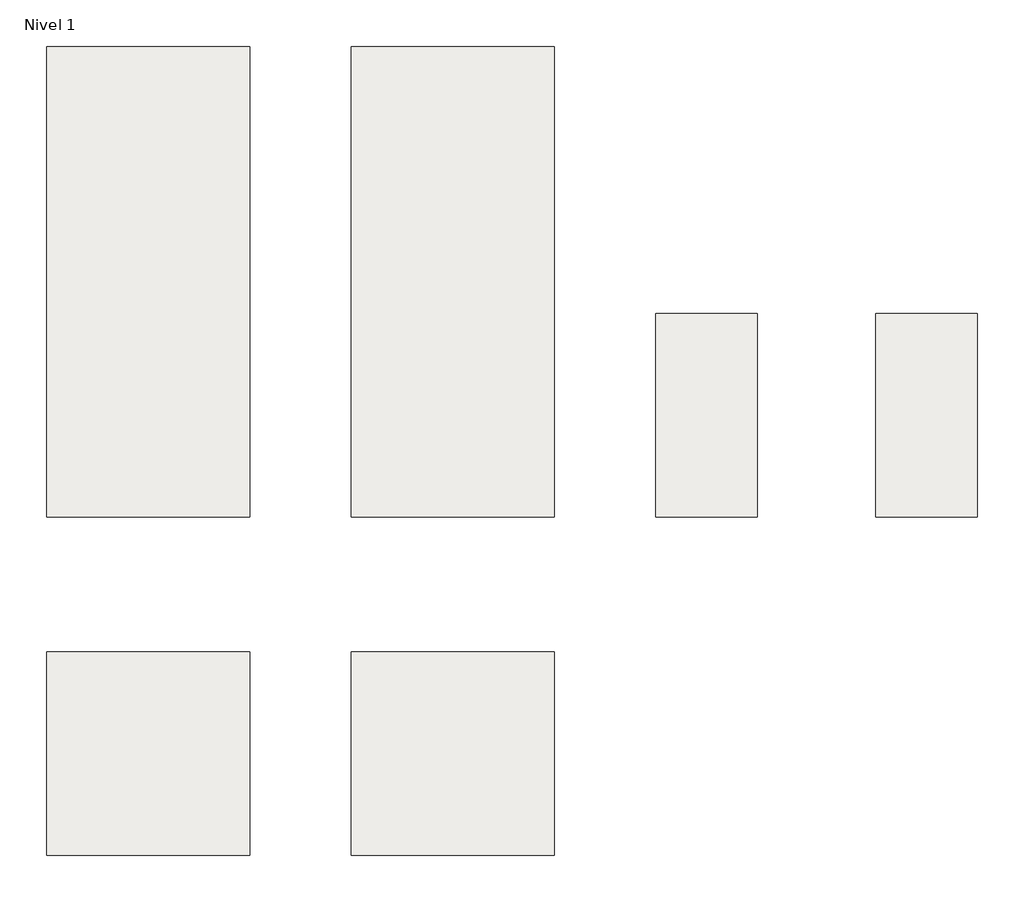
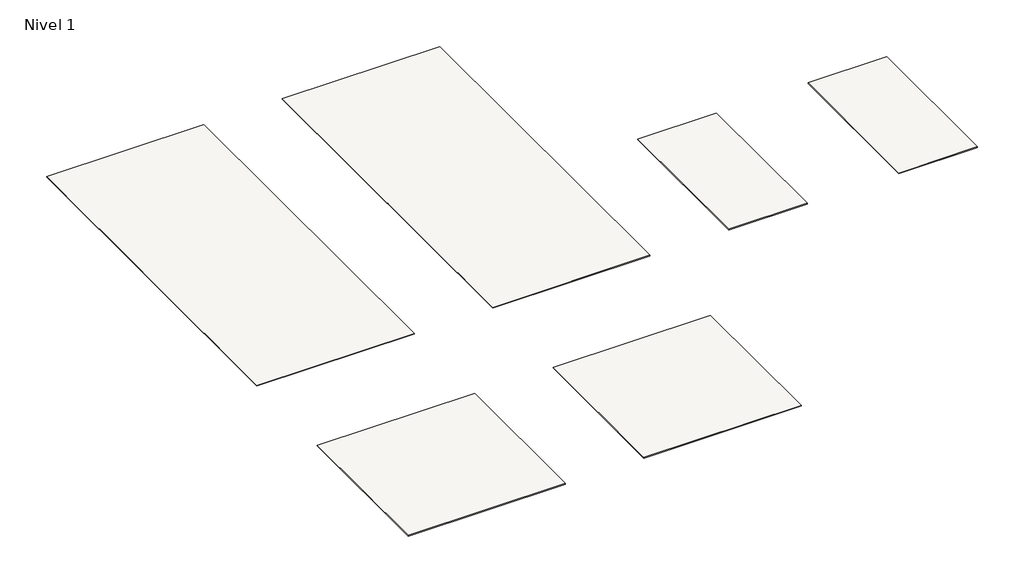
# One storey: 6 slabs.
"""IFC4 building model written with IfcOpenShell, lengths in millimetres."""

from ifc_helpers import new_model, si_unit, frame, origin, place, context, project, spatial, polyline, outline, extrude, element, save

model = new_model("IFC4")

# Units and contexts
model_context = context("Model", 3, world=origin())
ifc_project = project(units=[si_unit("LENGTHUNIT", "METRE", prefix="MILLI")], contexts=[model_context])

# Site, building, storey
site = spatial("IfcSite", under=ifc_project)
building = spatial("IfcBuilding", under=site)
storey = spatial("IfcBuildingStorey", under=building, Name="Nivel 1", Elevation=0.0)

# Slabs
placement = place(None, origin())
element("IfcSlab", 1, ObjectType="Calacata Vaglie 120X278 5,6 Natural", at=placement, inside=storey, context=model_context, shape_type="SweptSolid", body=[
    extrude(outline(polyline([(0.0, 2780.0), (1200.0, 2780.0), (1200.0, 0.0), (0.0, 0.0), (0.0, 2780.0)])), frame((0.0, 0.0, -5.6), z_axis=(0.0, 0.0, 1.0), x_axis=(1.0, 0.0, 0.0)), (0.0, 0.0, 1.0), 5.6),
])
element("IfcSlab", 2, ObjectType="Calacata Vaglie 120X278 5,6 Seda", at=placement, inside=storey, context=model_context, shape_type="SweptSolid", body=[
    extrude(outline(polyline([(1800.0, 2780.0), (3000.0, 2780.0), (3000.0, 0.0), (1800.0, 0.0), (1800.0, 2780.0)])), frame((0.0, 0.0, -5.6), z_axis=(0.0, 0.0, 1.0), x_axis=(1.0, 0.0, 0.0)), (0.0, 0.0, 1.0), 5.6),
])
element("IfcSlab", 3, ObjectType="Calacata Vaglie 120X120 5,6 Natural", at=placement, inside=storey, context=model_context, shape_type="SweptSolid", body=[
    extrude(outline(polyline([(0.0, -800.0), (1200.0, -800.0), (1200.0, -2000.0), (0.0, -2000.0), (0.0, -800.0)])), frame((0.0, 0.0, -5.6), z_axis=(0.0, 0.0, 1.0), x_axis=(1.0, 0.0, 0.0)), (0.0, 0.0, 1.0), 5.6),
])
element("IfcSlab", 4, ObjectType="Calacata Vaglie 60X120 5,6 Natural", at=placement, inside=storey, context=model_context, shape_type="SweptSolid", body=[
    extrude(outline(polyline([(3600.0, 1200.0), (4200.0, 1200.0), (4200.0, 0.0), (3600.0, 0.0), (3600.0, 1200.0)])), frame((0.0, 0.0, -5.6), z_axis=(0.0, 0.0, 1.0), x_axis=(1.0, 0.0, 0.0)), (0.0, 0.0, 1.0), 5.6),
])
element("IfcSlab", 5, ObjectType="Calacata Vaglie 120X120 5,6 Seda", at=placement, inside=storey, context=model_context, shape_type="SweptSolid", body=[
    extrude(outline(polyline([(1800.0, -800.0), (3000.0, -800.0), (3000.0, -2000.0), (1800.0, -2000.0), (1800.0, -800.0)])), frame((0.0, 0.0, -5.6), z_axis=(0.0, 0.0, 1.0), x_axis=(1.0, 0.0, 0.0)), (0.0, 0.0, 1.0), 5.6),
])
element("IfcSlab", 6, ObjectType="Calacata Vaglie 60X120 5,6 Seda", at=placement, inside=storey, context=model_context, shape_type="SweptSolid", body=[
    extrude(outline(polyline([(4900.0, 1200.0), (5500.0, 1200.0), (5500.0, 0.0), (4900.0, 0.0), (4900.0, 1200.0)])), frame((0.0, 0.0, -5.6), z_axis=(0.0, 0.0, 1.0), x_axis=(1.0, 0.0, 0.0)), (0.0, 0.0, 1.0), 5.6),
])

save(model, "model.ifc")
